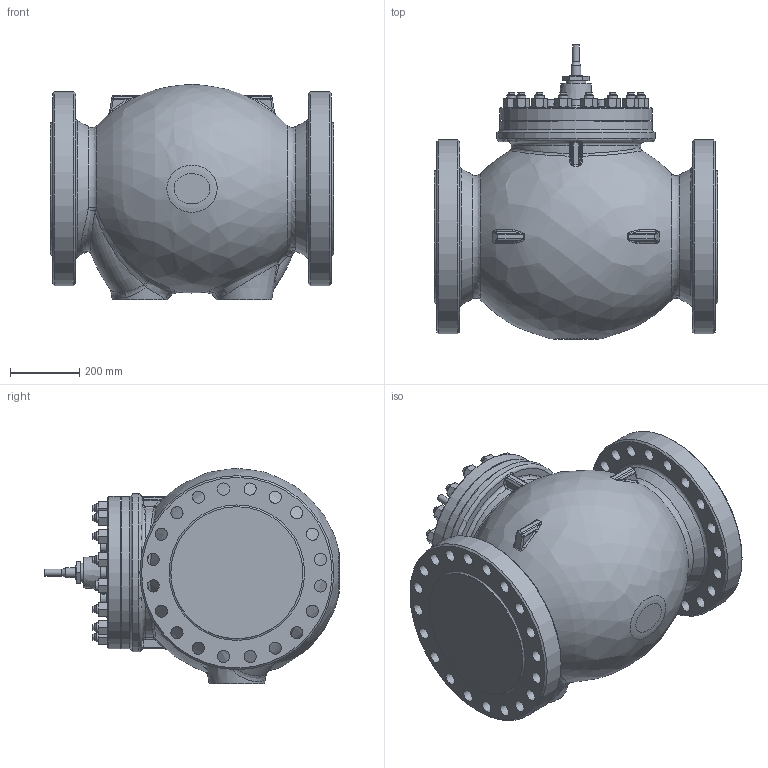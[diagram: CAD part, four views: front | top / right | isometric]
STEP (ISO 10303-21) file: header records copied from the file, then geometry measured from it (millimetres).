
FILE_DESCRIPTION(/* description */ (''),/* implementation_level */ '2;1');
FILE_NAME(/* name */ 'CV3xx_NPS_12_priruba_CL600.stp',/* time_stamp */ '2017-05-04T07:32:23+02:00',/* author */ (''),/* organization */ (''),/* preprocessor_version */ 'ST-DEVELOPER v15',/* originating_system */ 'SIEMENS PLM Software NX 8.5',/* authorisation */ '');
FILE_SCHEMA (('AP203_CONFIGURATION_CONTROLLED_3D_DESIGN_OF_MECHANICAL_PARTS_AND_ASSEMBLIES_MIM_LF { 1 0 10303 403 2 1 2}'));
Length unit declared in the file: millimetre
Products named in the file (1): adam0988A6FEes42
Bounding box: 819 x 851 x 621 mm (x, y, z)
Volume: 188633361.9 mm3; surface area: 3032431.6 mm2
Topology: 1 solids, 17 shells, 1616 faces, 3884 edges, 2361 vertices
Faces by surface type: plane 731, cone 398, cylinder 225, bspline 137, torus 67, extrusion 46, sphere 12
Full cylindrical faces by diameter (mm): 14.376 x2, 17.97 x4, 20 x1, 21.5 x15, 24 x16, 27 x32, 28 x1, 30 x16, 32 x1, 34.93 x20, 35 x20, 36 x1, 39 x1, 41 x32, 56 x1, 326 x1, 381 x2, 440 x2, 456 x1, 560 x2
Entity records: 48540 total; most frequent: CARTESIAN_POINT 16188, ORIENTED_EDGE 6586, DIRECTION 6036, EDGE_CURVE 3293, AXIS2_PLACEMENT_3D 2583, VERTEX_POINT 2131, EDGE_LOOP 2124, ADVANCED_FACE 1615
